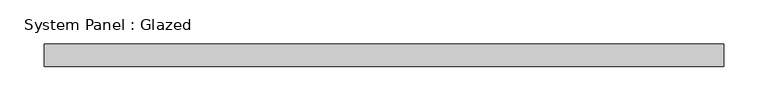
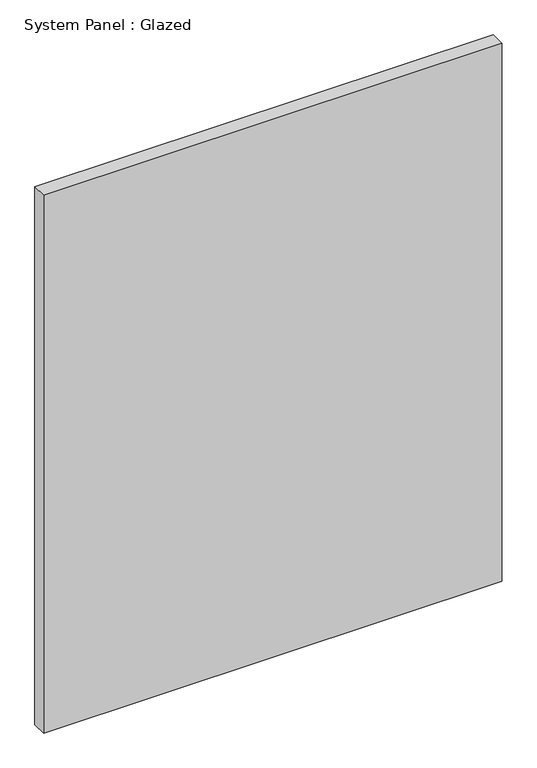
"""IFC4 building model written with IfcOpenShell, lengths in millimetres: plate geometry, System Panel : Glazed."""

from ifc_helpers import new_model, si_unit, origin, origin_with_axes, place, context, project, spatial, polyline, outline, extrude, source, transform, mapped, element, save


def system_panel_glazed_4ee038b0(model_context):
    return source(origin(), model_context, "Body", "SweptSolid", [
        extrude(outline(polyline([(382.7564098, 24.5), (-382.7564098, 24.5), (-382.7564098, 49.5), (382.7564098, 49.5), (382.7564098, 24.5)])), origin_with_axes(), (0.0, 0.0, 1.0), 950.0),
    ])


if __name__ == "__main__":
    model = new_model("IFC4")
    model_context = context("Model", 3, world=origin())
    ifc_project = project(units=[si_unit("LENGTHUNIT", "METRE", prefix="MILLI")], contexts=[model_context])
    site = spatial("IfcSite", under=ifc_project)
    building = spatial("IfcBuilding", under=site)
    placement = place(None, origin())
    system_panel_glazed_shape = system_panel_glazed_4ee038b0(model_context)
    element("IfcPlate", 1, ObjectType="System Panel : Glazed", at=placement, inside=building, context=model_context, shape_type="MappedRepresentation", body=[
        mapped(system_panel_glazed_shape, transform((0.0, 0.0, 0.0), x_axis=(1.0, 0.0, 0.0), y_axis=(0.0, 1.0, 0.0), z_axis=(0.0, 0.0, 1.0))),
    ])
    save(model, "model.ifc")
